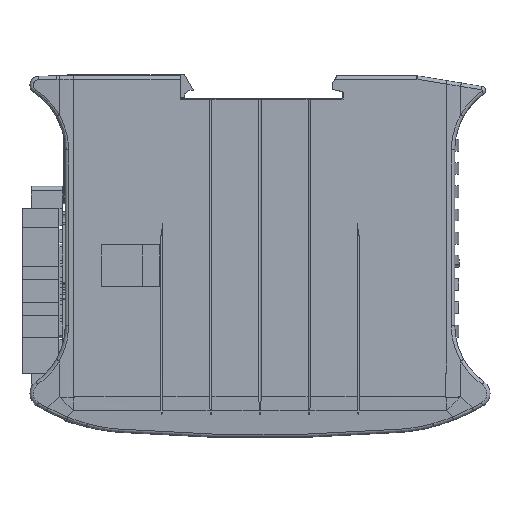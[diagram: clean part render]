
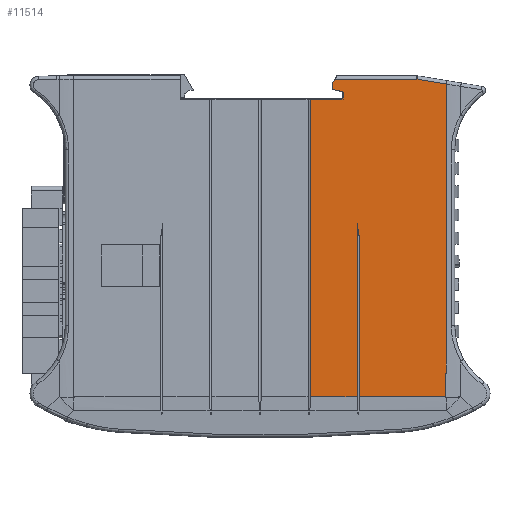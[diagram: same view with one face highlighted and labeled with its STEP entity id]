
A CAD part, front view. The second image highlights one B-rep face of the part: STEP entity #11514.
In plain terms, the highlighted planar face has unit normal (0, -1, 0).
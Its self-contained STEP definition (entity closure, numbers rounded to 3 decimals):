
#11514 = ADVANCED_FACE( '', ( #29260 ), #29261, .F. );
#29260 = FACE_OUTER_BOUND( '', #55856, .T. );
#29261 = PLANE( '', #55857 );
#55856 = EDGE_LOOP( '', ( #95615, #95616, #95617, #95618, #95619, #95620, #95621, #95622, #95623, #95624, #95625, #95626, #95627, #95628, #95629, #95630, #95631, #95632, #95633, #95634 ) );
#55857 = AXIS2_PLACEMENT_3D( '', #95635, #95636, #95637 );
#95615 = ORIENTED_EDGE( '', *, *, #125513, .T. );
#95616 = ORIENTED_EDGE( '', *, *, #125514, .T. );
#95617 = ORIENTED_EDGE( '', *, *, #125515, .T. );
#95618 = ORIENTED_EDGE( '', *, *, #125516, .T. );
#95619 = ORIENTED_EDGE( '', *, *, #122132, .F. );
#95620 = ORIENTED_EDGE( '', *, *, #122357, .T. );
#95621 = ORIENTED_EDGE( '', *, *, #125517, .F. );
#95622 = ORIENTED_EDGE( '', *, *, #125518, .F. );
#95623 = ORIENTED_EDGE( '', *, *, #125519, .F. );
#95624 = ORIENTED_EDGE( '', *, *, #125392, .T. );
#95625 = ORIENTED_EDGE( '', *, *, #125520, .F. );
#95626 = ORIENTED_EDGE( '', *, *, #123867, .T. );
#95627 = ORIENTED_EDGE( '', *, *, #125521, .T. );
#95628 = ORIENTED_EDGE( '', *, *, #122263, .F. );
#95629 = ORIENTED_EDGE( '', *, *, #121804, .F. );
#95630 = ORIENTED_EDGE( '', *, *, #121793, .F. );
#95631 = ORIENTED_EDGE( '', *, *, #125522, .T. );
#95632 = ORIENTED_EDGE( '', *, *, #121797, .F. );
#95633 = ORIENTED_EDGE( '', *, *, #123175, .F. );
#95634 = ORIENTED_EDGE( '', *, *, #125523, .T. );
#95635 = CARTESIAN_POINT( '', ( 0., -12.5, 0. ) );
#95636 = DIRECTION( '', ( 0., 1., 0. ) );
#95637 = DIRECTION( '', ( 1., 0., 0. ) );
#121793 = EDGE_CURVE( '', #131971, #131973, #131974, .T. );
#121797 = EDGE_CURVE( '', #131979, #131970, #131981, .T. );
#121804 = EDGE_CURVE( '', #131973, #131992, #131993, .T. );
#122132 = EDGE_CURVE( '', #132551, #132547, #132553, .T. );
#122263 = EDGE_CURVE( '', #131992, #132780, #132781, .T. );
#122357 = EDGE_CURVE( '', #132551, #132945, #132947, .T. );
#123175 = EDGE_CURVE( '', #134310, #131979, #134312, .T. );
#123867 = EDGE_CURVE( '', #135423, #135428, #135430, .T. );
#125392 = EDGE_CURVE( '', #137862, #137863, #137864, .T. );
#125513 = EDGE_CURVE( '', #138037, #138038, #138039, .T. );
#125514 = EDGE_CURVE( '', #138038, #138040, #138041, .T. );
#125515 = EDGE_CURVE( '', #138040, #138042, #138043, .T. );
#125516 = EDGE_CURVE( '', #138042, #132547, #138044, .T. );
#125517 = EDGE_CURVE( '', #138045, #132945, #138046, .T. );
#125518 = EDGE_CURVE( '', #138047, #138045, #138048, .T. );
#125519 = EDGE_CURVE( '', #137862, #138047, #138049, .T. );
#125520 = EDGE_CURVE( '', #135423, #137863, #138050, .T. );
#125521 = EDGE_CURVE( '', #135428, #132780, #138051, .T. );
#125522 = EDGE_CURVE( '', #131971, #131970, #138052, .T. );
#125523 = EDGE_CURVE( '', #134310, #138037, #138053, .T. );
#131970 = VERTEX_POINT( '', #146265 );
#131971 = VERTEX_POINT( '', #146266 );
#131973 = VERTEX_POINT( '', #146268 );
#131974 = LINE( '', #146269, #146270 );
#131979 = VERTEX_POINT( '', #146282 );
#131981 = LINE( '', #146291, #146292 );
#131992 = VERTEX_POINT( '', #146375 );
#131993 = LINE( '', #146376, #146377 );
#132547 = VERTEX_POINT( '', #147211 );
#132551 = VERTEX_POINT( '', #147216 );
#132553 = LINE( '', #147218, #147219 );
#132780 = VERTEX_POINT( '', #147608 );
#132781 = LINE( '', #147609, #147610 );
#132945 = VERTEX_POINT( '', #147847 );
#132947 = LINE( '', #147850, #147851 );
#134310 = VERTEX_POINT( '', #150093 );
#134312 = LINE( '', #150098, #150099 );
#135423 = VERTEX_POINT( '', #152072 );
#135428 = VERTEX_POINT( '', #152079 );
#135430 = LINE( '', #152082, #152083 );
#137862 = VERTEX_POINT( '', #155878 );
#137863 = VERTEX_POINT( '', #155879 );
#137864 = LINE( '', #155880, #155881 );
#138037 = VERTEX_POINT( '', #156163 );
#138038 = VERTEX_POINT( '', #156164 );
#138039 = B_SPLINE_CURVE_WITH_KNOTS( '', 1, ( #156165, #156166 ), .UNSPECIFIED., .F., .F., ( 2, 2 ), ( 0., 1. ), .UNSPECIFIED. );
#138040 = VERTEX_POINT( '', #156167 );
#138041 = LINE( '', #156168, #156169 );
#138042 = VERTEX_POINT( '', #156170 );
#138043 = LINE( '', #156171, #156172 );
#138044 = CIRCLE( '', #156173, 0.25 );
#138045 = VERTEX_POINT( '', #156174 );
#138046 = ELLIPSE( '', #156175, 0.3, 0.3 );
#138047 = VERTEX_POINT( '', #156176 );
#138048 = LINE( '', #156177, #156178 );
#138049 = ELLIPSE( '', #156179, 0.3, 0.3 );
#138050 = ELLIPSE( '', #156180, 0.3, 0.3 );
#138051 = LINE( '', #156181, #156182 );
#138052 = LINE( '', #156183, #156184 );
#138053 = B_SPLINE_CURVE_WITH_KNOTS( '', 1, ( #156185, #156186 ), .UNSPECIFIED., .F., .F., ( 2, 2 ), ( 0., 1. ), .UNSPECIFIED. );
#146265 = CARTESIAN_POINT( '', ( 21.849, -12.499, 3.134 ) );
#146266 = CARTESIAN_POINT( '', ( 21.352, -12.498, 6.66 ) );
#146268 = CARTESIAN_POINT( '', ( 21.35, -12.5, -31.423 ) );
#146269 = CARTESIAN_POINT( '', ( 21.35, -12.5, 6.66 ) );
#146270 = VECTOR( '', #169379, 1000. );
#146282 = CARTESIAN_POINT( '', ( 21.85, -12.5, -31.423 ) );
#146291 = CARTESIAN_POINT( '', ( 21.85, -12.5, -31.423 ) );
#146292 = VECTOR( '', #169383, 1000. );
#146375 = CARTESIAN_POINT( '', ( 11.05, -12.5, -31.423 ) );
#146376 = CARTESIAN_POINT( '', ( 21.35, -12.5, -31.423 ) );
#146377 = VECTOR( '', #169386, 1000. );
#147211 = CARTESIAN_POINT( '', ( 34.432, -12.5, 38.243 ) );
#147216 = CARTESIAN_POINT( '', ( 16.427, -12.5, 38.243 ) );
#147218 = CARTESIAN_POINT( '', ( 16.427, -12.5, 38.243 ) );
#147219 = VECTOR( '', #169719, 1000. );
#147608 = CARTESIAN_POINT( '', ( 11.05, -12.5, 33.891 ) );
#147609 = CARTESIAN_POINT( '', ( 11.05, -12.5, 46.95 ) );
#147610 = VECTOR( '', #169830, 1000. );
#147847 = CARTESIAN_POINT( '', ( 15.977, -12.5, 37.568 ) );
#147850 = CARTESIAN_POINT( '', ( -6.283, -12.5, 4.19 ) );
#147851 = VECTOR( '', #169917, 1000. );
#150093 = CARTESIAN_POINT( '', ( 40.761, -12.5, -31.423 ) );
#150098 = CARTESIAN_POINT( '', ( 31.305, -12.5, -31.423 ) );
#150099 = VECTOR( '', #170675, 1000. );
#152072 = CARTESIAN_POINT( '', ( 18.226, -12.5, 35.279 ) );
#152079 = CARTESIAN_POINT( '', ( 18.226, -12.5, 33.891 ) );
#152082 = CARTESIAN_POINT( '', ( 18.226, -12.5, 0. ) );
#152083 = VECTOR( '', #171295, 1000. );
#155878 = CARTESIAN_POINT( '', ( 16.162, -12.5, 35.97 ) );
#155879 = CARTESIAN_POINT( '', ( 17.99, -12.5, 35.572 ) );
#155880 = CARTESIAN_POINT( '', ( 8.196, -12.5, 37.702 ) );
#155881 = VECTOR( '', #172741, 1000. );
#156163 = CARTESIAN_POINT( '', ( 40.761, -12.5, -26.261 ) );
#156164 = CARTESIAN_POINT( '', ( 40.923, -12.5, -26.261 ) );
#156165 = CARTESIAN_POINT( '', ( 40.761, -12.5, -26.261 ) );
#156166 = CARTESIAN_POINT( '', ( 40.923, -12.5, -26.261 ) );
#156167 = CARTESIAN_POINT( '', ( 40.923, -12.5, 37.184 ) );
#156168 = CARTESIAN_POINT( '', ( 40.923, -12.5, -26.261 ) );
#156169 = VECTOR( '', #172845, 1000. );
#156170 = CARTESIAN_POINT( '', ( 34.472, -12.5, 38.24 ) );
#156171 = CARTESIAN_POINT( '', ( 40.923, -12.5, 37.184 ) );
#156172 = VECTOR( '', #172846, 1000. );
#156173 = AXIS2_PLACEMENT_3D( '', #172847, #172848, #172849 );
#156174 = CARTESIAN_POINT( '', ( 15.926, -12.5, 37.401 ) );
#156175 = AXIS2_PLACEMENT_3D( '', #172850, #172851, #172852 );
#156176 = CARTESIAN_POINT( '', ( 15.926, -12.5, 36.263 ) );
#156177 = CARTESIAN_POINT( '', ( 15.926, -12.5, 36. ) );
#156178 = VECTOR( '', #172853, 1000. );
#156179 = AXIS2_PLACEMENT_3D( '', #172854, #172855, #172856 );
#156180 = AXIS2_PLACEMENT_3D( '', #172857, #172858, #172859 );
#156181 = CARTESIAN_POINT( '', ( 0., -12.5, 33.891 ) );
#156182 = VECTOR( '', #172860, 1000. );
#156183 = CARTESIAN_POINT( '', ( 17.526, -12.5, 33.891 ) );
#156184 = VECTOR( '', #172861, 1000. );
#156185 = CARTESIAN_POINT( '', ( 40.761, -12.5, -31.423 ) );
#156186 = CARTESIAN_POINT( '', ( 40.76, -12.5, -26.261 ) );
#169379 = DIRECTION( '', ( 0., 0., -1. ) );
#169383 = DIRECTION( '', ( 0., 0., 1. ) );
#169386 = DIRECTION( '', ( -1., 0., 0. ) );
#169719 = DIRECTION( '', ( 1., 0., 0. ) );
#169830 = DIRECTION( '', ( 0., 0., 1. ) );
#169917 = DIRECTION( '', ( -0.555, 0., -0.832 ) );
#170675 = DIRECTION( '', ( -1., 0., 0. ) );
#171295 = DIRECTION( '', ( 0., 0., -1. ) );
#172741 = DIRECTION( '', ( 0.977, 0., -0.212 ) );
#172845 = DIRECTION( '', ( 0., 0., 1. ) );
#172846 = DIRECTION( '', ( -0.987, 0., 0.162 ) );
#172847 = CARTESIAN_POINT( '', ( 34.432, -12.5, 37.994 ) );
#172848 = DIRECTION( '', ( 0., -1., 0. ) );
#172849 = DIRECTION( '', ( 0.162, 0., 0.987 ) );
#172850 = CARTESIAN_POINT( '', ( 16.226, -12.5, 37.401 ) );
#172851 = DIRECTION( '', ( 0., 1., 0. ) );
#172852 = DIRECTION( '', ( -0.957, 0., 0.29 ) );
#172853 = DIRECTION( '', ( 0., 0., 1. ) );
#172854 = CARTESIAN_POINT( '', ( 16.226, -12.5, 36.263 ) );
#172855 = DIRECTION( '', ( 0., 1., 0. ) );
#172856 = DIRECTION( '', ( 0.779, 0., 0.628 ) );
#172857 = CARTESIAN_POINT( '', ( 17.926, -12.5, 35.279 ) );
#172858 = DIRECTION( '', ( 0., -1., 0. ) );
#172859 = DIRECTION( '', ( 0.779, 0., 0.628 ) );
#172860 = DIRECTION( '', ( -1., 0., 0. ) );
#172861 = DIRECTION( '', ( 0.139, 0., -0.99 ) );
